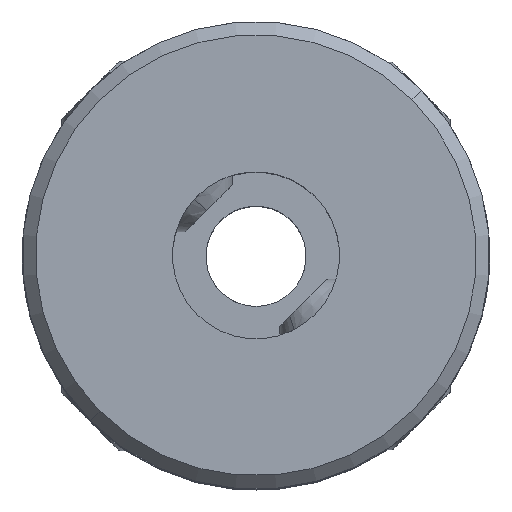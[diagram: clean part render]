
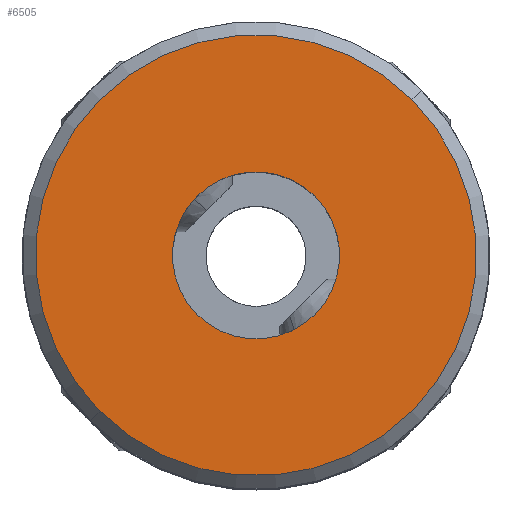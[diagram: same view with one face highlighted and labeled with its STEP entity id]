
A CAD part, top view. The second image highlights one B-rep face of the part: STEP entity #6505.
In plain terms, the highlighted planar face has unit normal (0, 0, 1).
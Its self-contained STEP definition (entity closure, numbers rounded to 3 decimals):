
#551 = CARTESIAN_POINT ( 'NONE',  ( 0., 0., 11. ) ) ;
#636 = CARTESIAN_POINT ( 'NONE',  ( 4.667, 4.667, 11. ) ) ;
#942 = EDGE_CURVE ( 'NONE', #2000, #7441, #4713, .T. ) ;
#1375 = DIRECTION ( 'NONE',  ( 0., 0., -1. ) ) ;
#1775 = DIRECTION ( 'NONE',  ( -0.707, -0.707, 0. ) ) ;
#2000 = VERTEX_POINT ( 'NONE', #636 ) ;
#2229 = CARTESIAN_POINT ( 'NONE',  ( 1.768, 1.768, 11. ) ) ;
#2234 = AXIS2_PLACEMENT_3D ( 'NONE', #9432, #10137, #1775 ) ;
#2387 = CIRCLE ( 'NONE', #5745, 6.6 ) ;
#2498 = ORIENTED_EDGE ( 'NONE', *, *, #7870, .T. ) ;
#2537 = DIRECTION ( 'NONE',  ( 0., 0., -1. ) ) ;
#3006 = VERTEX_POINT ( 'NONE', #9475 ) ;
#3337 = EDGE_LOOP ( 'NONE', ( #8605, #2498 ) ) ;
#3689 = DIRECTION ( 'NONE',  ( 0., 0., 1. ) ) ;
#4160 = CIRCLE ( 'NONE', #5485, 2.5 ) ;
#4307 = EDGE_LOOP ( 'NONE', ( #5544, #6006 ) ) ;
#4713 = CIRCLE ( 'NONE', #2234, 6.6 ) ;
#4924 = EDGE_CURVE ( 'NONE', #7441, #2000, #2387, .T. ) ;
#4993 = AXIS2_PLACEMENT_3D ( 'NONE', #5536, #9765, #10661 ) ;
#5485 = AXIS2_PLACEMENT_3D ( 'NONE', #7552, #2537, #9240 ) ;
#5536 = CARTESIAN_POINT ( 'NONE',  ( 0., 0., 11. ) ) ;
#5544 = ORIENTED_EDGE ( 'NONE', *, *, #4924, .T. ) ;
#5745 = AXIS2_PLACEMENT_3D ( 'NONE', #6188, #3689, #9550 ) ;
#6006 = ORIENTED_EDGE ( 'NONE', *, *, #942, .T. ) ;
#6188 = CARTESIAN_POINT ( 'NONE',  ( 0., 0., 11. ) ) ;
#6329 = FACE_OUTER_BOUND ( 'NONE', #4307, .T. ) ;
#6359 = PLANE ( 'NONE',  #6459 ) ;
#6459 = AXIS2_PLACEMENT_3D ( 'NONE', #551, #1375, #8915 ) ;
#6505 = ADVANCED_FACE ( 'NONE', ( #6329, #9191 ), #6359, .F. ) ;
#7129 = CARTESIAN_POINT ( 'NONE',  ( -4.667, -4.667, 11. ) ) ;
#7441 = VERTEX_POINT ( 'NONE', #7129 ) ;
#7552 = CARTESIAN_POINT ( 'NONE',  ( 0., 0., 11. ) ) ;
#7870 = EDGE_CURVE ( 'NONE', #8319, #3006, #8370, .T. ) ;
#8319 = VERTEX_POINT ( 'NONE', #2229 ) ;
#8370 = CIRCLE ( 'NONE', #4993, 2.5 ) ;
#8605 = ORIENTED_EDGE ( 'NONE', *, *, #8955, .T. ) ;
#8915 = DIRECTION ( 'NONE',  ( -0.707, -0.707, 0. ) ) ;
#8955 = EDGE_CURVE ( 'NONE', #3006, #8319, #4160, .T. ) ;
#9191 = FACE_BOUND ( 'NONE', #3337, .T. ) ;
#9240 = DIRECTION ( 'NONE',  ( -0.707, -0.707, 0. ) ) ;
#9432 = CARTESIAN_POINT ( 'NONE',  ( 0., 0., 11. ) ) ;
#9475 = CARTESIAN_POINT ( 'NONE',  ( -1.768, -1.768, 11. ) ) ;
#9550 = DIRECTION ( 'NONE',  ( -0.707, -0.707, 0. ) ) ;
#9765 = DIRECTION ( 'NONE',  ( 0., 0., -1. ) ) ;
#10137 = DIRECTION ( 'NONE',  ( 0., 0., 1. ) ) ;
#10661 = DIRECTION ( 'NONE',  ( -0.707, -0.707, 0. ) ) ;
